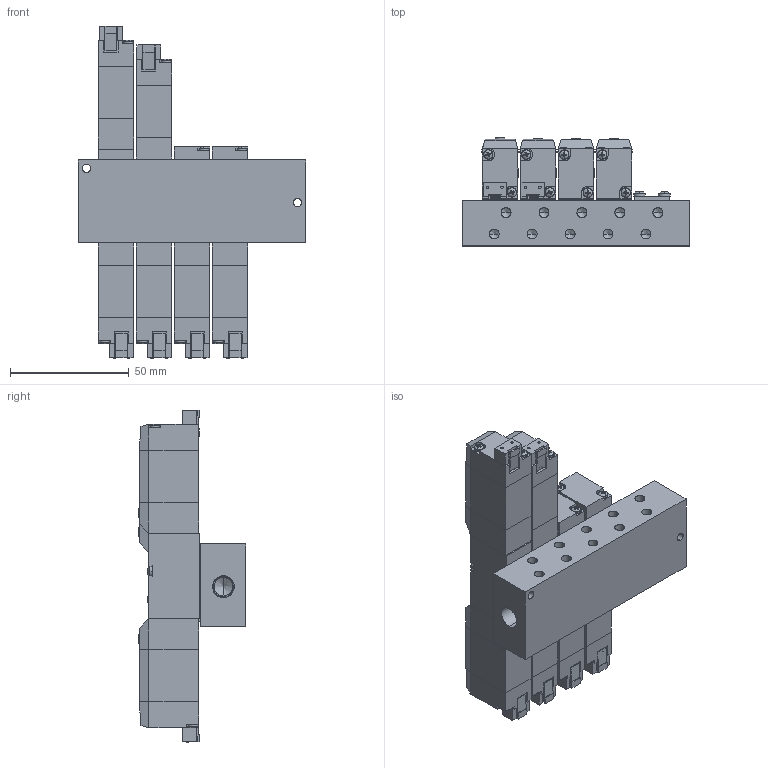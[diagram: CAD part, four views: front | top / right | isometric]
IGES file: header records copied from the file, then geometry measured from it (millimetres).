
Start section: SolidWorks IGES file using analytic representation for surfaces
Global section: file name: D:\Custom\3D繪製\PC\PC5\MFS#-PI5-M5-SP.IGS,1; native system: 5HSolidWorks 2014; preprocessor: SolidWorks 2014; author: Chieh_Lu; date: 150729.231518; units: millimetre
Bounding box: 96 x 45.46 x 140 mm (x, y, z)
Surface area: 76685.1 mm2 (no closed solid volume)
Topology: 0 solids, 0 shells, 2333 faces, 19502 edges, 19410 vertices
Faces by surface type: bspline 1581, revolution 752
